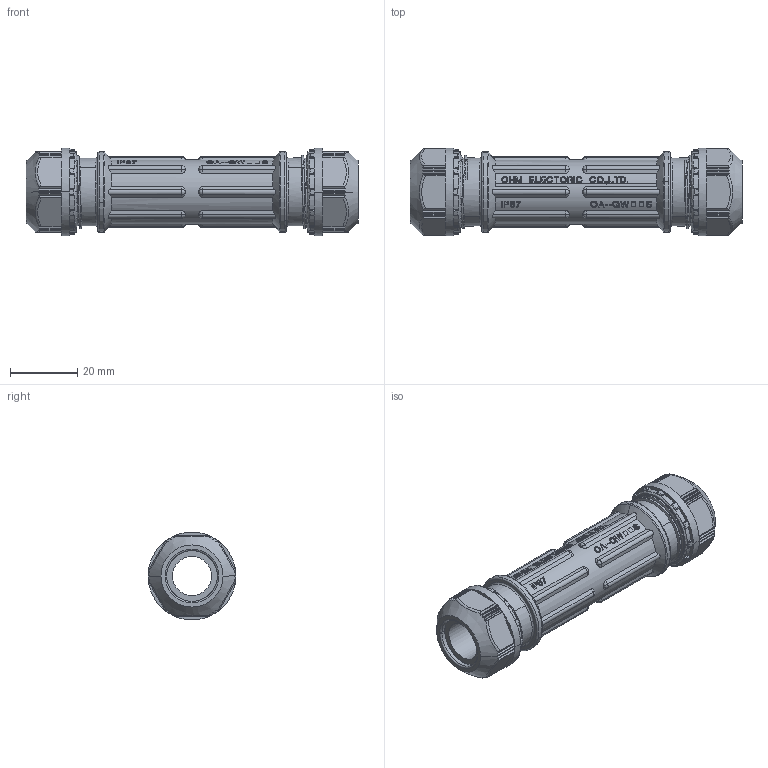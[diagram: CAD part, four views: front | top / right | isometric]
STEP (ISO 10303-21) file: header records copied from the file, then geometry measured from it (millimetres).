
FILE_DESCRIPTION(('Creo Elements/Direct Modeling STEP Export'),'2;1');
FILE_NAME('20120831_OA-QW1113SN.stp','2012-09-19T15:29:04',(''),(''),'Creo Elements/Direct Modeling STEP processor for AP214 (Solid Model)','Creo Elements/Direct Modeling 18.0B 02-Dec-2011 (C) Parametric Technology GmbH','');
FILE_SCHEMA(('AUTOMOTIVE_DESIGN { 1 0 10303 214 1 1 1 1 }'));
Products named in the file (6): OA-QW_本体; G13-13_R; R側; G13-11_L; L側; OA-QW1113SN
Assembly tree (5 placements, depth 3):
  OA-QW1113SN
    L側
      G13-11_L
    R側
      G13-13_R
    OA-QW_本体
Bounding box: 98.4 x 26 x 26 mm (x, y, z)
Volume: 20202.3 mm3; surface area: 17877.1 mm2
Topology: 3 solids, 3 shells, 1702 faces, 4747 edges, 3110 vertices
Faces by surface type: plane 1289, cylinder 281, torus 62, cone 52, bspline 18
Entity records: 66051 total; most frequent: CARTESIAN_POINT 22560, ORIENTED_EDGE 9494, DIRECTION 8527, EDGE_CURVE 4747, VERTEX_POINT 3110, AXIS2_PLACEMENT_3D 2873, VECTOR 2781, LINE 2781
